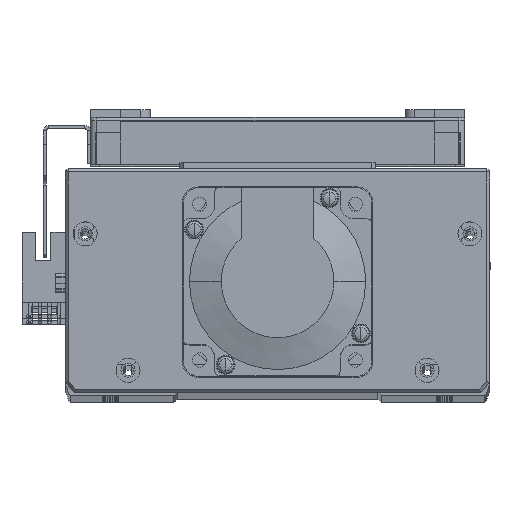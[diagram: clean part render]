
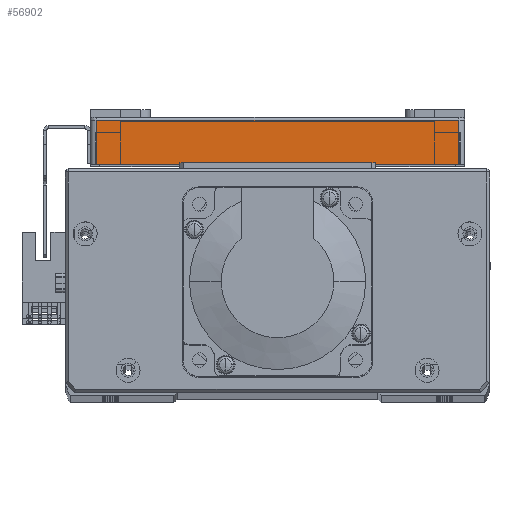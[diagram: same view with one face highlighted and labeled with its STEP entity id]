
A CAD part, top view. The second image highlights one B-rep face of the part: STEP entity #56902.
In plain terms, the highlighted planar face has unit normal (0, 0, 1) as drawn and (-1, 0, 0) by its records, which use the part's own axes.
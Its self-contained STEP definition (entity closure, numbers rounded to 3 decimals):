
#1235 = DIRECTION ( 'NONE',  ( 0., 0., 1. ) ) ;
#1237 = CARTESIAN_POINT ( 'NONE',  ( -95., 0., -59.5 ) ) ;
#1316 = DIRECTION ( 'NONE',  ( 0., -1., 0. ) ) ;
#1325 = CARTESIAN_POINT ( 'NONE',  ( -95., 15., -57.5 ) ) ;
#1408 = DIRECTION ( 'NONE',  ( 0., 0., -1. ) ) ;
#1430 = CARTESIAN_POINT ( 'NONE',  ( -95., 14., -57.5 ) ) ;
#19292 = EDGE_LOOP ( 'NONE', ( #22393, #22409, #22366, #22362 ) ) ;
#20327 = LINE ( 'NONE', #1237, #20331 ) ;
#20331 = VECTOR ( 'NONE', #1235, 1000. ) ;
#20400 = VECTOR ( 'NONE', #1316, 1000. ) ;
#20513 = LINE ( 'NONE', #1325, #20400 ) ;
#20583 = VECTOR ( 'NONE', #1408, 1000. ) ;
#20612 = LINE ( 'NONE', #1430, #20583 ) ;
#20691 = VECTOR ( 'NONE', #58117, 1000. ) ;
#20722 = LINE ( 'NONE', #58111, #20691 ) ;
#22362 = ORIENTED_EDGE ( 'NONE', *, *, #40017, .T. ) ;
#22366 = ORIENTED_EDGE ( 'NONE', *, *, #40059, .T. ) ;
#22393 = ORIENTED_EDGE ( 'NONE', *, *, #40117, .T. ) ;
#22409 = ORIENTED_EDGE ( 'NONE', *, *, #40083, .T. ) ;
#31023 = CARTESIAN_POINT ( 'NONE',  ( -95., 14., -57.5 ) ) ;
#31716 = DIRECTION ( 'NONE',  ( 1., 0., 0. ) ) ;
#31730 = PLANE ( 'NONE',  #34320 ) ;
#31738 = DIRECTION ( 'NONE',  ( 0., 0., -1. ) ) ;
#31746 = CARTESIAN_POINT ( 'NONE',  ( -95., 15., -59.5 ) ) ;
#34320 = AXIS2_PLACEMENT_3D ( 'NONE', #31746, #31716, #31738 ) ;
#36411 = FACE_OUTER_BOUND ( 'NONE', #19292, .T. ) ;
#36729 = CARTESIAN_POINT ( 'NONE',  ( -95., 0., -57.5 ) ) ;
#36748 = CARTESIAN_POINT ( 'NONE',  ( -95., 0., 57.5 ) ) ;
#37032 = CARTESIAN_POINT ( 'NONE',  ( -95., 14., 57.5 ) ) ;
#40017 = EDGE_CURVE ( 'NONE', #55806, #55807, #20327, .T. ) ;
#40059 = EDGE_CURVE ( 'NONE', #55840, #55806, #20513, .T. ) ;
#40083 = EDGE_CURVE ( 'NONE', #55809, #55840, #20612, .T. ) ;
#40117 = EDGE_CURVE ( 'NONE', #55807, #55809, #20722, .T. ) ;
#55806 = VERTEX_POINT ( 'NONE', #36729 ) ;
#55807 = VERTEX_POINT ( 'NONE', #36748 ) ;
#55809 = VERTEX_POINT ( 'NONE', #37032 ) ;
#55840 = VERTEX_POINT ( 'NONE', #31023 ) ;
#56902 = ADVANCED_FACE ( 'NONE', ( #36411 ), #31730, .F. ) ;
#58111 = CARTESIAN_POINT ( 'NONE',  ( -95., 15., 57.5 ) ) ;
#58117 = DIRECTION ( 'NONE',  ( 0., 1., 0. ) ) ;
